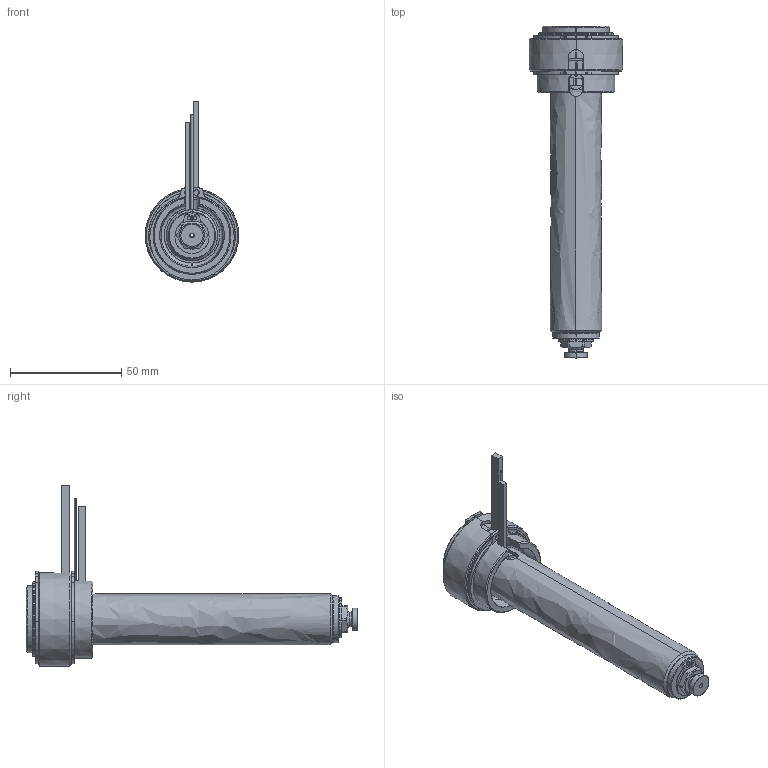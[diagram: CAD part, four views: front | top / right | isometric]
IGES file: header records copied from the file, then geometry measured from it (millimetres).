
Start section: SolidWorks IGES file using analytic representation for surfaces
Global section: file name: C:\Users\luca.EMPAD\Desktop\TEM\UGBE3503-M-A-3 [Ød-1.5 P-0 ØC-7.0].IGS; native system: SolidWorks 2012; preprocessor: SolidWorks 2012; author: luca; date: 120330.140454; units: millimetre
Bounding box: 42 x 149 x 80.9 mm (x, y, z)
Surface area: 36974.8 mm2 (no closed solid volume)
Topology: 0 solids, 0 shells, 183 faces, 3314 edges, 3314 vertices
Faces by surface type: revolution 116, bspline 67
